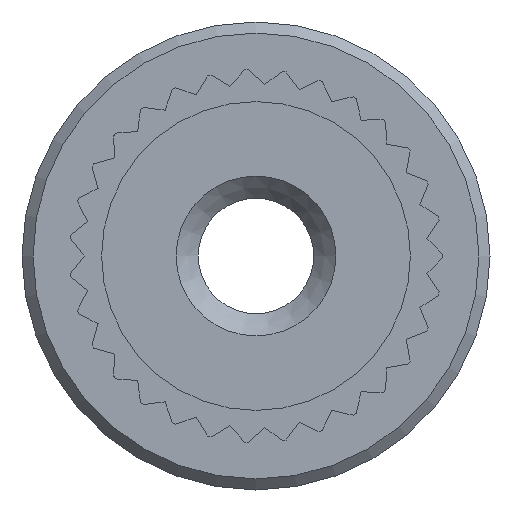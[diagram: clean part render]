
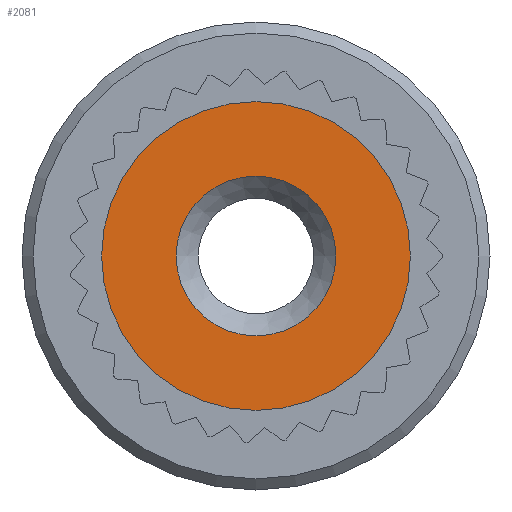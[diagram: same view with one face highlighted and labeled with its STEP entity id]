
A CAD part, front view. The second image highlights one B-rep face of the part: STEP entity #2081.
In plain terms, the highlighted planar face has unit normal (0, -1, 0).
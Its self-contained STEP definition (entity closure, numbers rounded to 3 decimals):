
#18=FACE_BOUND('',#331,.T.);
#84=PLANE('',#2284);
#221=FACE_OUTER_BOUND('',#330,.T.);
#330=EDGE_LOOP('',(#1957));
#331=EDGE_LOOP('',(#1958));
#861=CIRCLE('',#2283,1.084);
#862=CIRCLE('',#2285,2.095);
#1062=VERTEX_POINT('',#3480);
#1063=VERTEX_POINT('',#3484);
#1361=EDGE_CURVE('',#1062,#1062,#861,.T.);
#1363=EDGE_CURVE('',#1063,#1063,#862,.T.);
#1957=ORIENTED_EDGE('',*,*,#1363,.F.);
#1958=ORIENTED_EDGE('',*,*,#1361,.F.);
#2081=ADVANCED_FACE('',(#221,#18),#84,.T.);
#2283=AXIS2_PLACEMENT_3D('',#3481,#2864,#2865);
#2284=AXIS2_PLACEMENT_3D('',#3483,#2867,#2868);
#2285=AXIS2_PLACEMENT_3D('',#3485,#2869,#2870);
#2864=DIRECTION('center_axis',(0.,-1.,0.));
#2865=DIRECTION('ref_axis',(1.,0.,0.));
#2867=DIRECTION('center_axis',(0.,-1.,0.));
#2868=DIRECTION('ref_axis',(0.,0.,-1.));
#2869=DIRECTION('center_axis',(0.,1.,0.));
#2870=DIRECTION('ref_axis',(1.,0.,0.));
#3480=CARTESIAN_POINT('',(-1.084,0.,0.));
#3481=CARTESIAN_POINT('Origin',(0.,0.,
0.));
#3483=CARTESIAN_POINT('Origin',(-2.095,0.,0.));
#3484=CARTESIAN_POINT('',(2.095,0.,0.));
#3485=CARTESIAN_POINT('Origin',(0.,0.,
0.));
